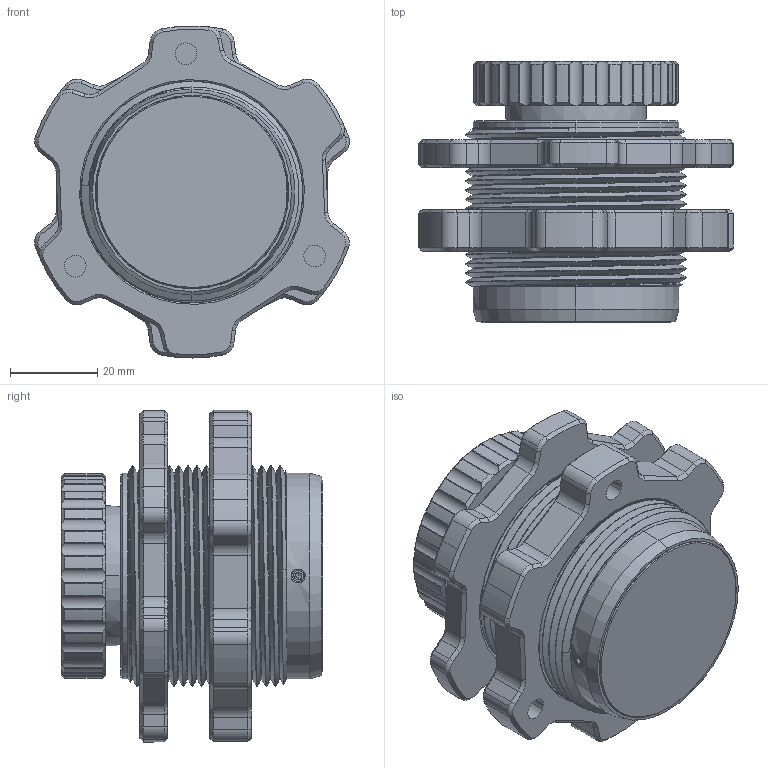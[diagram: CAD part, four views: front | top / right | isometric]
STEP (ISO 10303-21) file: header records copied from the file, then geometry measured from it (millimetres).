
FILE_DESCRIPTION (( 'STEP AP214' ), '1' );
FILE_NAME ('MX-150-TH_Protected_RevA.STEP', '2018-07-25T20:41:52', ( '' ), ( '' ), 'SwSTEP 2.0', 'SolidWorks 2017', '' );
FILE_SCHEMA (( 'AUTOMOTIVE_DESIGN' ));
Length unit declared in the file: inch
Products named in the file (11): Knob_Protected_RevD; MX-150-TH_Protected_RevA; Lower_Platter_Protected_MX-150-AL_RevD; Lock_Nut_Threaded_Cylinder_RevB; Label_Logo_1.625OD; FHSC_10-32x1.00L_SS_MMC_90585A992_90585A991; MX-150-JS_Plunger_Protected_RevA; 91598A252_STEEL COILED SPRING PIN_91598A252; Upper_Platter_Protected_MX-150-AL_RevD; Mount_Nut_Threaded_Cylinder_RevB; Housing_Threaded_Protected_RevC
Assembly tree (11 placements, depth 2):
  MX-150-TH_Protected_RevA
    Lower_Platter_Protected_MX-150-AL_RevD
    Upper_Platter_Protected_MX-150-AL_RevD
    Housing_Threaded_Protected_RevC
    MX-150-JS_Plunger_Protected_RevA
    Knob_Protected_RevD
    91598A252_STEEL COILED SPRING PIN_91598A252  x2
    FHSC_10-32x1.00L_SS_MMC_90585A992_90585A991
    Lock_Nut_Threaded_Cylinder_RevB
    Mount_Nut_Threaded_Cylinder_RevB
    Label_Logo_1.625OD
Bounding box: 72.24 x 59.99 x 76.2 mm (x, y, z)
Volume: 125802.9 mm3; surface area: 58888.9 mm2
Topology: 11 solids, 11 shells, 864 faces, 2184 edges, 1349 vertices
Faces by surface type: cylinder 427, cone 257, plane 155, bspline 23, torus 2
Entity records: 41488 total; most frequent: CARTESIAN_POINT 21740, ORIENTED_EDGE 4258, DIRECTION 3781, EDGE_CURVE 2129, AXIS2_PLACEMENT_3D 1446, VERTEX_POINT 1315, LINE 889, VECTOR 889
